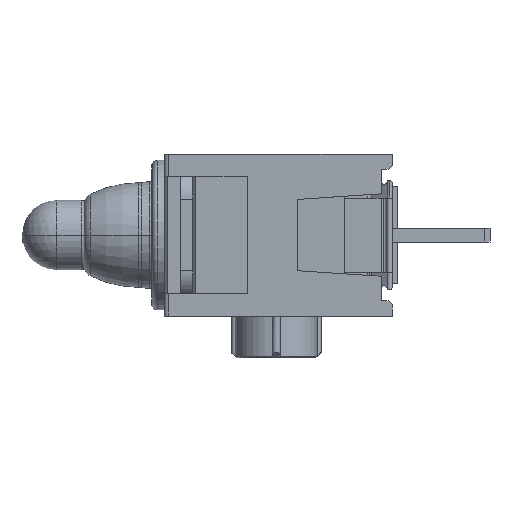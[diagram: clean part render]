
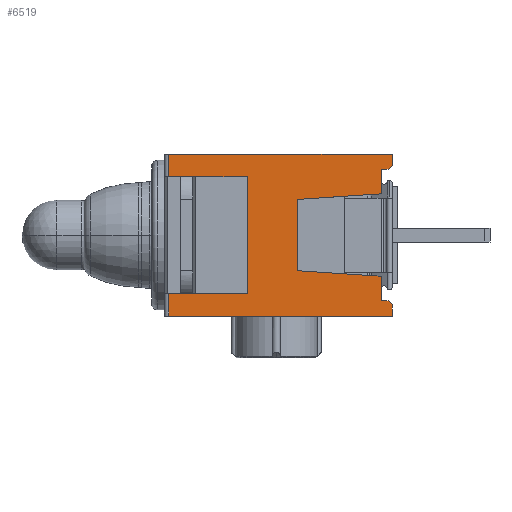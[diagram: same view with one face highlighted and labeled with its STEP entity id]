
A CAD part, left-side view. The second image highlights one B-rep face of the part: STEP entity #6519.
In plain terms, the highlighted planar face has unit normal (-1, 0, 0).
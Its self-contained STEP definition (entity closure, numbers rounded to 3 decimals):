
#1013 = DIRECTION ( 'NONE',  ( 0., 0., 1. ) ) ;
#1014 = VECTOR ( 'NONE', #1013, 1000. ) ;
#1015 = CARTESIAN_POINT ( 'NONE',  ( -6.5, 0.2, 2.502 ) ) ;
#1016 = LINE ( 'NONE', #1015, #1014 ) ;
#1074 = DIRECTION ( 'NONE',  ( 0., -0.707, 0.707 ) ) ;
#1075 = VECTOR ( 'NONE', #1074, 1000. ) ;
#1076 = CARTESIAN_POINT ( 'NONE',  ( -6.5, 0.2, 2.502 ) ) ;
#1077 = LINE ( 'NONE', #1076, #1075 ) ;
#3613 = EDGE_CURVE ( 'NONE', #3846, #4817, #9446, .T. ) ;
#3630 = EDGE_CURVE ( 'NONE', #4817, #3907, #9300, .T. ) ;
#3748 = VERTEX_POINT ( 'NONE', #9676 ) ;
#3787 = CARTESIAN_POINT ( 'NONE',  ( -6.5, 8.205, -2.095 ) ) ;
#3789 = DIRECTION ( 'NONE',  ( 0., -1., 0. ) ) ;
#3791 = VECTOR ( 'NONE', #3789, 1000. ) ;
#3793 = CARTESIAN_POINT ( 'NONE',  ( -6.5, 8.355, -2.095 ) ) ;
#3794 = LINE ( 'NONE', #3793, #3791 ) ;
#3799 = CARTESIAN_POINT ( 'NONE',  ( -6.5, 5.39, -2.095 ) ) ;
#3802 = DIRECTION ( 'NONE',  ( 0., 0., -1. ) ) ;
#3803 = VECTOR ( 'NONE', #3802, 1000. ) ;
#3805 = CARTESIAN_POINT ( 'NONE',  ( -6.5, 5.39, -2.095 ) ) ;
#3807 = LINE ( 'NONE', #3805, #3803 ) ;
#3814 = CARTESIAN_POINT ( 'NONE',  ( -6.5, 5.39, 2.095 ) ) ;
#3816 = DIRECTION ( 'NONE',  ( 0., 1., 0. ) ) ;
#3817 = VECTOR ( 'NONE', #3816, 1000. ) ;
#3819 = CARTESIAN_POINT ( 'NONE',  ( -6.5, 8.355, 2.095 ) ) ;
#3820 = LINE ( 'NONE', #3819, #3817 ) ;
#3846 = VERTEX_POINT ( 'NONE', #9622 ) ;
#3852 = EDGE_CURVE ( 'NONE', #3855, #3846, #9621, .T. ) ;
#3855 = VERTEX_POINT ( 'NONE', #9539 ) ;
#3903 = CARTESIAN_POINT ( 'NONE',  ( -6.5, 8.205, 2.095 ) ) ;
#3904 = EDGE_CURVE ( 'NONE', #3907, #3748, #9484, .T. ) ;
#3905 = DIRECTION ( 'NONE',  ( 0., 0., -1. ) ) ;
#3907 = VERTEX_POINT ( 'NONE', #9480 ) ;
#3906 = VECTOR ( 'NONE', #3905, 1000. ) ;
#3909 = CARTESIAN_POINT ( 'NONE',  ( -6.5, 8.205, 2.9 ) ) ;
#3910 = LINE ( 'NONE', #3909, #3906 ) ;
#3915 = DIRECTION ( 'NONE',  ( 0., 0., -1. ) ) ;
#3917 = DIRECTION ( 'NONE',  ( 1., 0., 0. ) ) ;
#3919 = CARTESIAN_POINT ( 'NONE',  ( -6.5, 8.355, 2.9 ) ) ;
#3920 = AXIS2_PLACEMENT_3D ( 'NONE', #3919, #3917, #3915 ) ;
#3925 = PLANE ( 'NONE',  #3920 ) ;
#3970 = FACE_OUTER_BOUND ( 'NONE', #6520, .T. ) ;
#3972 = CARTESIAN_POINT ( 'NONE',  ( -6.5, 3.6, -1.275 ) ) ;
#3975 = DIRECTION ( 'NONE',  ( 0., 0.998, 0.067 ) ) ;
#4052 = VECTOR ( 'NONE', #3975, 1000. ) ;
#4054 = CARTESIAN_POINT ( 'NONE',  ( -6.5, 0.6, -1.475 ) ) ;
#4055 = LINE ( 'NONE', #4054, #4052 ) ;
#4059 = CARTESIAN_POINT ( 'NONE',  ( -6.5, 0.6, -1.475 ) ) ;
#4062 = DIRECTION ( 'NONE',  ( 0., 0., 1. ) ) ;
#4063 = VECTOR ( 'NONE', #4062, 1000. ) ;
#4065 = CARTESIAN_POINT ( 'NONE',  ( -6.5, 0.6, -2.352 ) ) ;
#4068 = LINE ( 'NONE', #4065, #4063 ) ;
#4072 = DIRECTION ( 'NONE',  ( 0., 0., -1. ) ) ;
#4073 = VECTOR ( 'NONE', #4072, 1000. ) ;
#4076 = CARTESIAN_POINT ( 'NONE',  ( -6.5, 8.205, 2.9 ) ) ;
#4078 = LINE ( 'NONE', #4076, #4073 ) ;
#4403 = DIRECTION ( 'NONE',  ( 0., 0., 1. ) ) ;
#4404 = VECTOR ( 'NONE', #4403, 1000. ) ;
#4405 = CARTESIAN_POINT ( 'NONE',  ( -6.5, 0.6, 1.475 ) ) ;
#4406 = LINE ( 'NONE', #4405, #4404 ) ;
#4408 = CARTESIAN_POINT ( 'NONE',  ( -6.5, 0.6, 1.475 ) ) ;
#4409 = DIRECTION ( 'NONE',  ( 0., -0.998, 0.067 ) ) ;
#4410 = VECTOR ( 'NONE', #4409, 1000. ) ;
#4411 = CARTESIAN_POINT ( 'NONE',  ( -6.5, 3.6, 1.275 ) ) ;
#4412 = LINE ( 'NONE', #4411, #4410 ) ;
#4413 = CARTESIAN_POINT ( 'NONE',  ( -6.5, 3.6, 1.275 ) ) ;
#4414 = DIRECTION ( 'NONE',  ( 0., 0., 1. ) ) ;
#4415 = VECTOR ( 'NONE', #4414, 1000. ) ;
#4416 = CARTESIAN_POINT ( 'NONE',  ( -6.5, 3.6, -2.352 ) ) ;
#4417 = LINE ( 'NONE', #4416, #4415 ) ;
#4653 = VERTEX_POINT ( 'NONE', #10104 ) ;
#4692 = EDGE_CURVE ( 'NONE', #4734, #4693, #10112, .T. ) ;
#4693 = VERTEX_POINT ( 'NONE', #10158 ) ;
#4734 = VERTEX_POINT ( 'NONE', #10259 ) ;
#4778 = EDGE_CURVE ( 'NONE', #4803, #4779, #10299, .T. ) ;
#4779 = VERTEX_POINT ( 'NONE', #10295 ) ;
#4803 = VERTEX_POINT ( 'NONE', #10404 ) ;
#4817 = VERTEX_POINT ( 'NONE', #10221 ) ;
#5260 = EDGE_CURVE ( 'NONE', #4693, #4653, #1077, .T. ) ;
#5276 = EDGE_CURVE ( 'NONE', #4653, #4779, #1016, .T. ) ;
#6507 = ORIENTED_EDGE ( 'NONE', *, *, #6508, .T. ) ;
#6508 = EDGE_CURVE ( 'NONE', #6533, #3855, #4078, .T. ) ;
#6509 = ORIENTED_EDGE ( 'NONE', *, *, #3852, .T. ) ;
#6510 = ORIENTED_EDGE ( 'NONE', *, *, #3613, .T. ) ;
#6511 = ORIENTED_EDGE ( 'NONE', *, *, #3630, .T. ) ;
#6512 = ORIENTED_EDGE ( 'NONE', *, *, #3904, .T. ) ;
#6513 = ORIENTED_EDGE ( 'NONE', *, *, #6514, .T. ) ;
#6514 = EDGE_CURVE ( 'NONE', #3748, #6515, #4068, .T. ) ;
#6515 = VERTEX_POINT ( 'NONE', #4059 ) ;
#6516 = ORIENTED_EDGE ( 'NONE', *, *, #6517, .T. ) ;
#6517 = EDGE_CURVE ( 'NONE', #6515, #6518, #4055, .T. ) ;
#6518 = VERTEX_POINT ( 'NONE', #3972 ) ;
#6519 = ADVANCED_FACE ( 'NONE', ( #3970 ), #3925, .F. ) ;
#6520 = EDGE_LOOP ( 'NONE', ( #6521, #6522, #6525, #6528, #6531, #6507, #6509, #6510, #6511, #6512, #6513, #6516, #6554, #6557, #6560, #6562, #6563, #6566 ) ) ;
#6521 = ORIENTED_EDGE ( 'NONE', *, *, #4778, .F. ) ;
#6522 = ORIENTED_EDGE ( 'NONE', *, *, #6523, .T. ) ;
#6523 = EDGE_CURVE ( 'NONE', #4803, #6524, #3910, .T. ) ;
#6524 = VERTEX_POINT ( 'NONE', #3903 ) ;
#6525 = ORIENTED_EDGE ( 'NONE', *, *, #6526, .F. ) ;
#6526 = EDGE_CURVE ( 'NONE', #6527, #6524, #3820, .T. ) ;
#6527 = VERTEX_POINT ( 'NONE', #3814 ) ;
#6528 = ORIENTED_EDGE ( 'NONE', *, *, #6529, .T. ) ;
#6529 = EDGE_CURVE ( 'NONE', #6527, #6530, #3807, .T. ) ;
#6530 = VERTEX_POINT ( 'NONE', #3799 ) ;
#6531 = ORIENTED_EDGE ( 'NONE', *, *, #6532, .F. ) ;
#6532 = EDGE_CURVE ( 'NONE', #6533, #6530, #3794, .T. ) ;
#6533 = VERTEX_POINT ( 'NONE', #3787 ) ;
#6554 = ORIENTED_EDGE ( 'NONE', *, *, #6555, .T. ) ;
#6555 = EDGE_CURVE ( 'NONE', #6518, #6556, #4417, .T. ) ;
#6556 = VERTEX_POINT ( 'NONE', #4413 ) ;
#6557 = ORIENTED_EDGE ( 'NONE', *, *, #6558, .T. ) ;
#6558 = EDGE_CURVE ( 'NONE', #6556, #6559, #4412, .T. ) ;
#6559 = VERTEX_POINT ( 'NONE', #4408 ) ;
#6560 = ORIENTED_EDGE ( 'NONE', *, *, #6561, .T. ) ;
#6561 = EDGE_CURVE ( 'NONE', #6559, #4734, #4406, .T. ) ;
#6562 = ORIENTED_EDGE ( 'NONE', *, *, #4692, .T. ) ;
#6563 = ORIENTED_EDGE ( 'NONE', *, *, #5260, .T. ) ;
#6566 = ORIENTED_EDGE ( 'NONE', *, *, #5276, .T. ) ;
#9297 = DIRECTION ( 'NONE',  ( 0., 0.707, 0.707 ) ) ;
#9298 = VECTOR ( 'NONE', #9297, 1000. ) ;
#9299 = CARTESIAN_POINT ( 'NONE',  ( -6.5, 0.2, -2.502 ) ) ;
#9300 = LINE ( 'NONE', #9299, #9298 ) ;
#9443 = DIRECTION ( 'NONE',  ( 0., 0., 1. ) ) ;
#9444 = VECTOR ( 'NONE', #9443, 1000. ) ;
#9445 = CARTESIAN_POINT ( 'NONE',  ( -6.5, 0.2, -2.502 ) ) ;
#9446 = LINE ( 'NONE', #9445, #9444 ) ;
#9480 = CARTESIAN_POINT ( 'NONE',  ( -6.5, 0.35, -2.352 ) ) ;
#9481 = DIRECTION ( 'NONE',  ( 0., 1., 0. ) ) ;
#9482 = VECTOR ( 'NONE', #9481, 1000. ) ;
#9483 = CARTESIAN_POINT ( 'NONE',  ( -6.5, 7.77, -2.353 ) ) ;
#9484 = LINE ( 'NONE', #9483, #9482 ) ;
#9539 = CARTESIAN_POINT ( 'NONE',  ( -6.5, 8.205, -2.9 ) ) ;
#9540 = DIRECTION ( 'NONE',  ( 0., -1., 0. ) ) ;
#9541 = VECTOR ( 'NONE', #9540, 1000. ) ;
#9620 = CARTESIAN_POINT ( 'NONE',  ( -6.5, 8.355, -2.9 ) ) ;
#9621 = LINE ( 'NONE', #9620, #9541 ) ;
#9622 = CARTESIAN_POINT ( 'NONE',  ( -6.5, 0.2, -2.9 ) ) ;
#9676 = CARTESIAN_POINT ( 'NONE',  ( -6.5, 0.6, -2.352 ) ) ;
#10104 = CARTESIAN_POINT ( 'NONE',  ( -6.5, 0.2, 2.502 ) ) ;
#10109 = DIRECTION ( 'NONE',  ( 0., -1., 0. ) ) ;
#10110 = VECTOR ( 'NONE', #10109, 1000. ) ;
#10111 = CARTESIAN_POINT ( 'NONE',  ( -6.5, 7.77, 2.353 ) ) ;
#10112 = LINE ( 'NONE', #10111, #10110 ) ;
#10158 = CARTESIAN_POINT ( 'NONE',  ( -6.5, 0.35, 2.352 ) ) ;
#10221 = CARTESIAN_POINT ( 'NONE',  ( -6.5, 0.2, -2.502 ) ) ;
#10259 = CARTESIAN_POINT ( 'NONE',  ( -6.5, 0.6, 2.352 ) ) ;
#10295 = CARTESIAN_POINT ( 'NONE',  ( -6.5, 0.2, 2.9 ) ) ;
#10296 = DIRECTION ( 'NONE',  ( 0., -1., 0. ) ) ;
#10297 = VECTOR ( 'NONE', #10296, 1000. ) ;
#10298 = CARTESIAN_POINT ( 'NONE',  ( -6.5, 8.355, 2.9 ) ) ;
#10299 = LINE ( 'NONE', #10298, #10297 ) ;
#10404 = CARTESIAN_POINT ( 'NONE',  ( -6.5, 8.205, 2.9 ) ) ;
